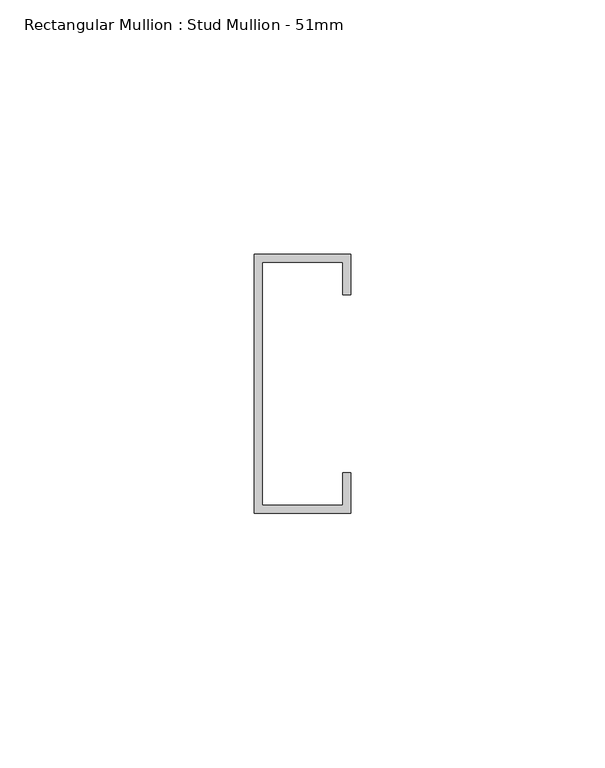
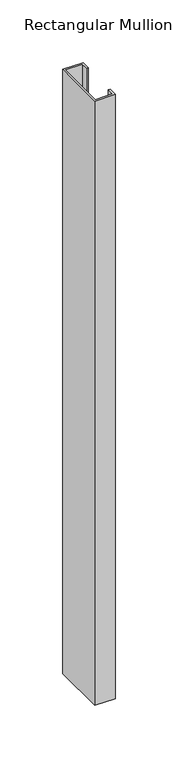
"""IFC4 building model written with IfcOpenShell, lengths in millimetres: member geometry, Rectangular Mullion : Stud Mullion - 51mm."""

import ifcopenshell
import ifcopenshell.guid

model = None  # the IFC model being written
_history = None  # IfcOwnerHistory: only IFC2X3 demands one
_inside = {}  # id of a spatial element -> (the spatial element, [elements in it])
_under = {}  # id of a project, library or spatial element -> (it, [spatial elements below it])
_declared = {}  # id of a project -> (the project, [libraries it declares])
_typed = {}  # id of a type object -> (the type object, [elements of that type])
_made_of = {}  # id of a material, layer set ... -> (it, [elements and type objects made of it])


def new_model(schema):
    """Start an empty IFC model of exactly this schema.

    Asked for "IFC4X3", IfcOpenShell would pick the latest addendum, in which some entities
    have other attributes; the version numbers below select the first issue.
    IFC2X3 requires an IfcOwnerHistory on every rooted entity: one is made here for all.
    """
    global model, _history
    if schema == "IFC4X3":
        model = ifcopenshell.file(schema_version=(4, 3, 0, 0))
    else:
        model = ifcopenshell.file(schema=schema)
    _inside.clear()
    _under.clear()
    _declared.clear()
    _typed.clear()
    _made_of.clear()
    _history = None
    if model.schema == "IFC2X3":
        org = make("IfcOrganization", Name="unknown")
        user = make(
            "IfcPersonAndOrganization",
            ThePerson=make("IfcPerson", FamilyName="unknown"),
            TheOrganization=org,
        )
        app = make(
            "IfcApplication",
            ApplicationDeveloper=org,
            Version="unknown",
            ApplicationFullName="unknown",
            ApplicationIdentifier="unknown",
        )
        _history = make(
            "IfcOwnerHistory",
            OwningUser=user,
            OwningApplication=app,
            ChangeAction="ADDED",
            CreationDate=0,
        )
    return model


def make(cls, **values):
    """One entity of the class cls with the attributes given. An attribute that is None is left unset."""
    return model.create_entity(
        cls, **{name: value for name, value in values.items() if value is not None}
    )


def rooted(cls, **values):
    """An entity with a GlobalId (a new one), such as an element, a storey or a relation."""
    return make(cls, GlobalId=ifcopenshell.guid.new(), OwnerHistory=_history, **values)


def si_unit(unit_type, name, prefix=None):
    """IfcSIUnit, for example si_unit("LENGTHUNIT", "METRE", prefix="MILLI")."""
    return make("IfcSIUnit", UnitType=unit_type, Prefix=prefix, Name=name)


def assignment(units):
    """IfcUnitAssignment: the units of a project."""
    return None if units is None else make("IfcUnitAssignment", Units=units)


def point(xyz):
    """IfcCartesianPoint."""
    return None if xyz is None else make("IfcCartesianPoint", Coordinates=xyz)


def direction(xyz):
    """IfcDirection."""
    return None if xyz is None else make("IfcDirection", DirectionRatios=xyz)


def frame(location, z_axis=None, x_axis=None):
    """IfcAxis2Placement3D, a coordinate frame: its origin and axes. An axis left out is left unset."""
    return make(
        "IfcAxis2Placement3D",
        Location=point(location),
        Axis=direction(z_axis),
        RefDirection=direction(x_axis),
    )


def origin():
    """The frame at (0, 0, 0) with its axes left unset."""
    return frame((0.0, 0.0, 0.0))


def place(relative_to, where):
    """IfcLocalPlacement: puts the frame where relative to a parent placement (None: the world)."""
    return make(
        "IfcLocalPlacement", PlacementRelTo=relative_to, RelativePlacement=where
    )


def context(
    kind, dimensions, precision=None, world=None, true_north=None, identifier=None
):
    """IfcGeometricRepresentationContext, for example the 3D "Model" context."""
    return make(
        "IfcGeometricRepresentationContext",
        ContextIdentifier=identifier,
        ContextType=kind,
        CoordinateSpaceDimension=dimensions,
        Precision=precision,
        WorldCoordinateSystem=world,
        TrueNorth=true_north,
    )


def project(units=None, contexts=None):
    """IfcProject with its units and contexts."""
    return rooted(
        "IfcProject",
        Name="project",
        RepresentationContexts=contexts,
        UnitsInContext=assignment(units),
    )


def spatial(cls, under=None, at=None, **own):
    """A site, building, storey or space (cls), placed at a placement, below another one or the project."""
    s = rooted(cls, ObjectPlacement=at, **own)
    if under is not None:
        _under.setdefault(under.id(), (under, []))[1].append(s)
    return s


def polyline(points):
    """IfcPolyline through the points."""
    return make("IfcPolyline", Points=[point(p) for p in points])


def outline(outer, holes=None, kind="AREA"):
    """IfcArbitraryClosedProfileDef: a profile drawn as a closed curve; with holes, ...WithVoids."""
    if holes is None:
        return make("IfcArbitraryClosedProfileDef", ProfileType=kind, OuterCurve=outer)
    return make(
        "IfcArbitraryProfileDefWithVoids",
        ProfileType=kind,
        OuterCurve=outer,
        InnerCurves=holes,
    )


def extrude(swept, where, along, depth):
    """IfcExtrudedAreaSolid: the profile swept, set in the frame where, extruded along a direction by depth."""
    return make(
        "IfcExtrudedAreaSolid",
        SweptArea=swept,
        Position=where,
        ExtrudedDirection=direction(along),
        Depth=depth,
    )


def shape(context_of_items, identifier, shape_type, items):
    """IfcShapeRepresentation: the items that make up one representation, for example the "Body"."""
    return make(
        "IfcShapeRepresentation",
        ContextOfItems=context_of_items,
        RepresentationIdentifier=identifier,
        RepresentationType=shape_type,
        Items=items,
    )


def source(mapping_origin, context_of_items, identifier, shape_type, items):
    """IfcRepresentationMap: a shape defined once, which mapped items show again and again."""
    return make(
        "IfcRepresentationMap",
        MappingOrigin=mapping_origin,
        MappedRepresentation=shape(context_of_items, identifier, shape_type, items),
    )


def transform(
    local_origin,
    x_axis=None,
    y_axis=None,
    z_axis=None,
    scale=None,
    scale2=None,
    scale3=None,
    uniform=True,
):
    """IfcCartesianTransformationOperator3D, or its non-uniform kind. x_axis, y_axis, z_axis: its Axis1, 2, 3."""
    if uniform:
        return make(
            "IfcCartesianTransformationOperator3D",
            Axis1=direction(x_axis),
            Axis2=direction(y_axis),
            LocalOrigin=point(local_origin),
            Scale=scale,
            Axis3=direction(z_axis),
        )
    return make(
        "IfcCartesianTransformationOperator3DnonUniform",
        Axis1=direction(x_axis),
        Axis2=direction(y_axis),
        LocalOrigin=point(local_origin),
        Scale=scale,
        Axis3=direction(z_axis),
        Scale2=scale2,
        Scale3=scale3,
    )


def mapped(mapping_source, mapping_target):
    """IfcMappedItem: shows the shape of a source again, moved by a transform."""
    return make(
        "IfcMappedItem", MappingSource=mapping_source, MappingTarget=mapping_target
    )


def made_of(thing, what):
    """Note that an element or type object is made of a material, layer set ...; save() writes the relation."""
    if what is not None:
        _made_of.setdefault(what.id(), (what, []))[1].append(thing)
    return thing


def element(
    cls,
    number,
    at=None,
    inside=None,
    cuts=None,
    type_object=None,
    material=None,
    context=None,
    identifier="Body",
    shape_type=None,
    held_by="IfcProductDefinitionShape",
    body=None,
    shapes=None,
    **own,
):
    """One element of the class cls, such as IfcWall. Its Tag is "e" and its number.

    at: its placement. inside: the storey or other place that contains it. cuts: it is an
    opening in that element (IfcRelVoidsElement). A single representation is given by context,
    identifier, shape_type and body (its items); several are given by shapes. held_by: the class
    of the entity that holds the representations. save() writes the other relations.
    """
    e = rooted(cls, Tag="e%d" % number, ObjectPlacement=at, **own)
    if body is not None:
        shapes = [shape(context, identifier, shape_type, body)]
    if shapes is not None:
        e.Representation = make(held_by, Representations=shapes)
    if inside is not None:
        _inside.setdefault(inside.id(), (inside, []))[1].append(e)
    if cuts is not None:
        rooted(
            "IfcRelVoidsElement", RelatingBuildingElement=cuts, RelatedOpeningElement=e
        )
    if type_object is not None:
        _typed.setdefault(type_object.id(), (type_object, []))[1].append(e)
    return made_of(e, material)


def aggregate(whole, parts):
    """IfcRelAggregates: a whole, such as a stair, and the parts it consists of."""
    return rooted("IfcRelAggregates", RelatingObject=whole, RelatedObjects=parts)


def save(model, path):
    """Write the relations noted so far, then the file.

    IfcRelAggregates (storeys below a building ...), IfcRelContainedInSpatialStructure (elements
    in a storey), IfcRelDefinesByType, IfcRelAssociatesMaterial and IfcRelDeclares: one each for
    every whole, place, type object, material and project.
    """
    for whole, parts in _under.values():
        aggregate(whole, parts)
    for where, things in _inside.values():
        rooted(
            "IfcRelContainedInSpatialStructure",
            RelatedElements=things,
            RelatingStructure=where,
        )
    for kind, things in _typed.values():
        rooted("IfcRelDefinesByType", RelatedObjects=things, RelatingType=kind)
    for what, things in _made_of.values():
        rooted("IfcRelAssociatesMaterial", RelatedObjects=things, RelatingMaterial=what)
    for by, libraries in _declared.values():
        rooted("IfcRelDeclares", RelatingContext=by, RelatedDefinitions=libraries)
    model.write(path)


def rectangular_mullion_stud_mullion_51mm_6ea5e37d(model_context):
    return source(origin(), model_context, "Body", "SweptSolid", [
        extrude(outline(polyline([(0.0, 17.5), (-1.6, 17.5), (-1.6, 23.9), (-17.4, 23.9), (-17.4, -23.9), (-1.6, -23.9), (-1.6, -17.5), (0.0, -17.5), (0.0, -25.5), (-19.0, -25.5), (-19.0, 25.5), (0.0, 25.5), (0.0, 17.5)])), frame((0.0, 0.0, -588.8999998), z_axis=(0.0, 0.0, 1.0), x_axis=(1.0, 0.0, 0.0)), (0.0, 0.0, 1.0), 588.8999998),
    ])


if __name__ == "__main__":
    model = new_model("IFC4")
    model_context = context("Model", 3, world=origin())
    ifc_project = project(units=[si_unit("LENGTHUNIT", "METRE", prefix="MILLI")], contexts=[model_context])
    site = spatial("IfcSite", under=ifc_project)
    building = spatial("IfcBuilding", under=site)
    placement = place(None, origin())
    rectangular_mullion_stud_mullion_51mm_shape = rectangular_mullion_stud_mullion_51mm_6ea5e37d(model_context)
    element("IfcMember", 1, ObjectType="Rectangular Mullion : Stud Mullion - 51mm", at=placement, inside=building, context=model_context, shape_type="MappedRepresentation", body=[
        mapped(rectangular_mullion_stud_mullion_51mm_shape, transform((0.0, 0.0, 0.0), x_axis=(1.0, 0.0, 0.0), y_axis=(0.0, 1.0, 0.0), z_axis=(0.0, 0.0, 1.0))),
    ])
    save(model, "model.ifc")
